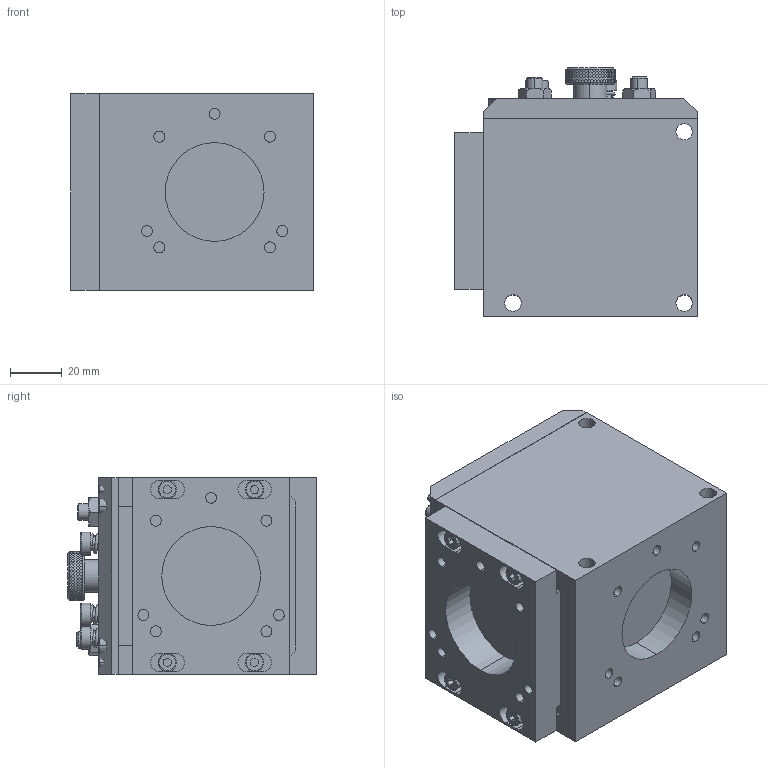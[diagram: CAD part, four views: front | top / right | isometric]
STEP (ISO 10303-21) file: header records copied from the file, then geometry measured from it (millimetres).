
FILE_DESCRIPTION (( 'STEP AP214' ), '1' );
FILE_NAME ('BSK2-50010-N.STEP', '2017-03-07T21:49:35', ( '' ), ( '' ), 'SwSTEP 2.0', 'SolidWorks 2017', '' );
FILE_SCHEMA (( 'AUTOMOTIVE_DESIGN' ));
Length unit declared in the file: inch
Products named in the file (1): BSK2-50010-N
Bounding box: 93.65 x 95.94 x 76.2 mm (x, y, z)
Volume: 534054.2 mm3; surface area: 90100.8 mm2
Topology: 43 solids, 43 shells, 3376 faces, 8445 edges, 5537 vertices
Faces by surface type: plane 2345, cylinder 768, cone 118, torus 84, bspline 53, sphere 8
Entity records: 129688 total; most frequent: CARTESIAN_POINT 58755, ORIENTED_EDGE 16866, DIRECTION 12355, EDGE_CURVE 8433, VERTEX_POINT 5533, AXIS2_PLACEMENT_3D 4475, EDGE_LOOP 3800, LINE 3405
